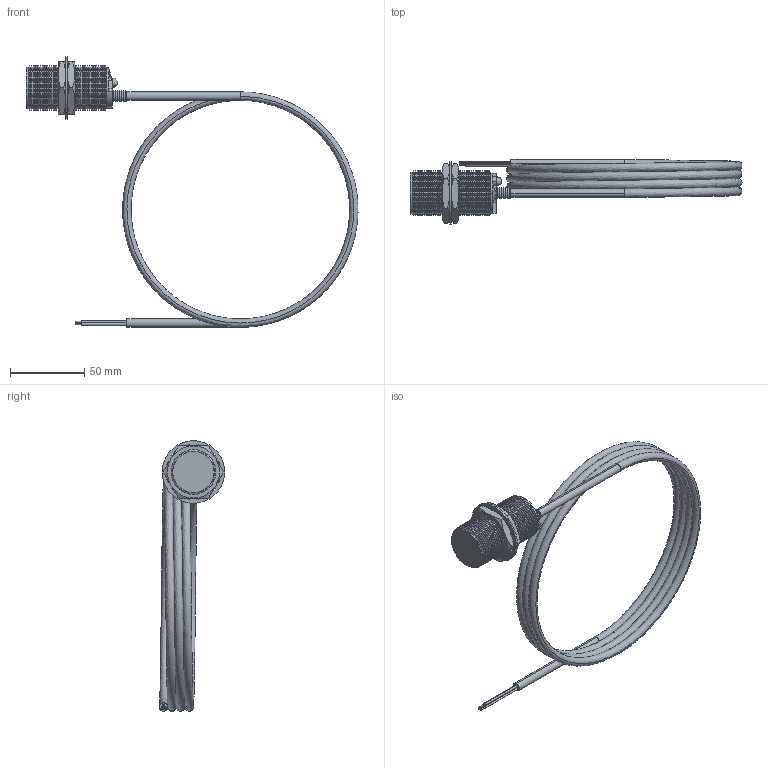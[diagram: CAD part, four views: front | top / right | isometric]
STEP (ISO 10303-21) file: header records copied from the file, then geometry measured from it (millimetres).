
FILE_DESCRIPTION (( 'STEP AP203' ), '1' );
FILE_NAME ('90-29417-081.STEP', '2016-04-29T21:17:58', ( 'Sam' ), ( 'Spade' ), 'SwSTEP 2.0', 'SolidWorks 2002296', '' );
FILE_SCHEMA (( 'CONFIG_CONTROL_DESIGN' ));
Length unit declared in the file: inch
Products named in the file (18): 90-29417-081; Imported72; Imported71; Imported87; Imported81; Imported82; Imported74; Imported73; Imported84; Imported83; Imported86; Imported85; Imported76; Imported75; Imported77; Imported80; Imported79; Imported78
Assembly tree (17 placements, depth 2):
  90-29417-081
    Imported81
    Imported76
    Imported83
    Imported85
    Imported75
    Imported77
    Imported80
    Imported71
    Imported87
    Imported72
    Imported78
    Imported74
    Imported73
    Imported84
    Imported86
    Imported82
    Imported79
Bounding box: 223.04 x 43.98 x 181.8 mm (x, y, z)
Volume: 89793.2 mm3; surface area: 51773.4 mm2
Topology: 17 solids, 17 shells, 441 faces, 998 edges, 597 vertices
Faces by surface type: cone 193, cylinder 146, plane 96, bspline 6
Entity records: 15354 total; most frequent: CARTESIAN_POINT 3298, DIRECTION 2326, ORIENTED_EDGE 1992, EDGE_CURVE 996, AXIS2_PLACEMENT_3D 937, VERTEX_POINT 597, CIRCLE 482, EDGE_LOOP 457
